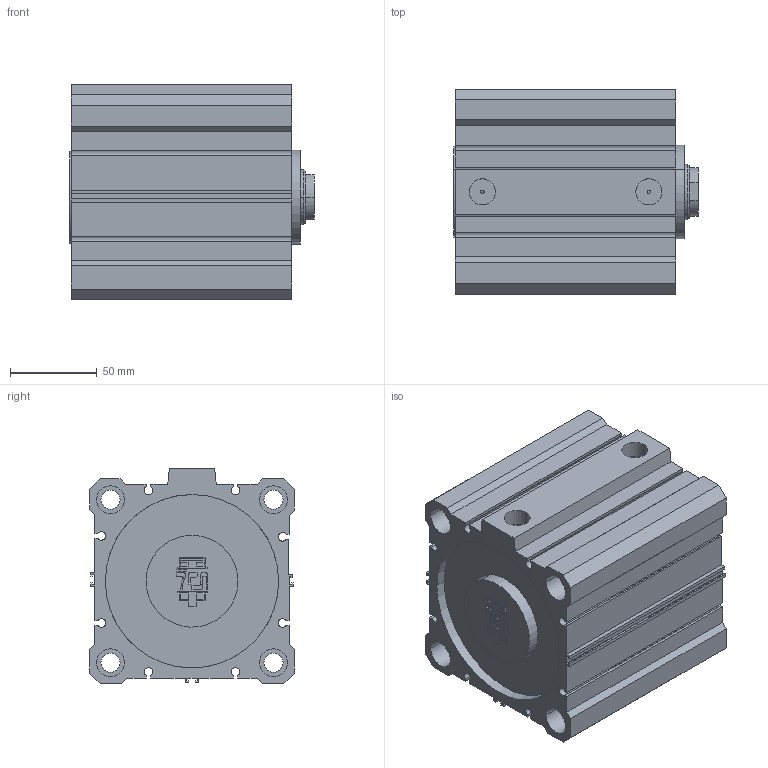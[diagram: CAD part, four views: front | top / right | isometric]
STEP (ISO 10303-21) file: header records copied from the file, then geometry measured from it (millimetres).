
FILE_DESCRIPTION(('CATIA V5 STEP Exchange'),'2;1');
FILE_NAME('D:\PDA\PDA-STP\PDA 100-32\PDA 100-32-70.stp','2016-02-02T11:08:19+00:00',('none'),('none'),'Version 5-6 Release 2012','CATIA V5 STEP AP203','none');
FILE_SCHEMA(('CONFIG_CONTROL_DESIGN'));
Length unit declared in the file: millimetre
Products named in the file (1): PDA 100-32-70-00
Assembly tree (2 placements, depth 2):
  PDA 100-32-70-00
    #58
    #7695
Bounding box: 141 x 118 x 124 mm (x, y, z)
Volume: 971787 mm3; surface area: 208823.8 mm2
Topology: 2 solids, 2 shells, 284 faces, 744 edges, 498 vertices
Faces by surface type: plane 202, cylinder 80, cone 2
Entity records: 8167 total; most frequent: ORIENTED_EDGE 1488, CARTESIAN_POINT 1432, DIRECTION 1124, EDGE_CURVE 744, VECTOR 574, LINE 574, VERTEX_POINT 498, AXIS2_PLACEMENT_3D 360
